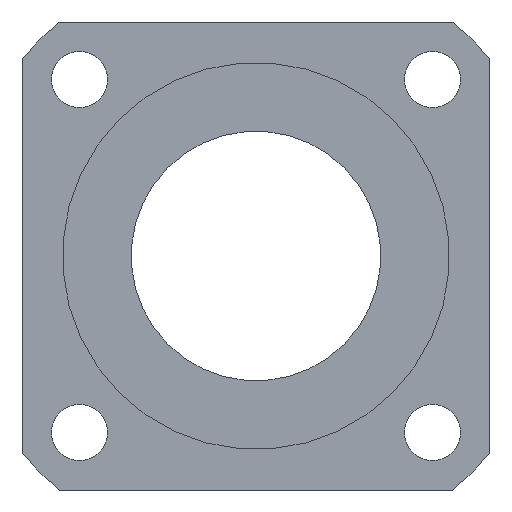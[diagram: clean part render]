
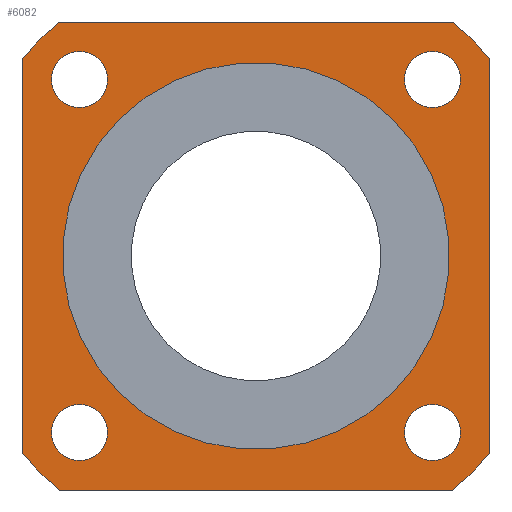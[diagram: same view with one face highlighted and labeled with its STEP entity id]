
A CAD part, left-side view. The second image highlights one B-rep face of the part: STEP entity #6082.
In plain terms, the highlighted planar face has unit normal (-1, 0, 0).
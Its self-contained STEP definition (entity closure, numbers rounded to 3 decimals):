
#104=CIRCLE('',#6450,49.);
#105=CIRCLE('',#6452,49.);
#106=CIRCLE('',#6454,49.);
#116=CIRCLE('',#6469,31.);
#118=CIRCLE('',#6474,49.);
#119=CIRCLE('',#6475,4.5);
#120=CIRCLE('',#6476,4.5);
#121=CIRCLE('',#6477,4.5);
#122=CIRCLE('',#6478,4.5);
#347=LINE('',#9561,#1079);
#348=LINE('',#9562,#1080);
#349=LINE('',#9563,#1081);
#350=LINE('',#9567,#1082);
#1079=VECTOR('',#7063,1000.);
#1080=VECTOR('',#7064,1000.);
#1081=VECTOR('',#7065,1000.);
#1082=VECTOR('',#7068,1000.);
#1888=ORIENTED_EDGE('',*,*,#3638,.T.);
#1889=ORIENTED_EDGE('',*,*,#3621,.F.);
#1890=ORIENTED_EDGE('',*,*,#3639,.T.);
#1891=ORIENTED_EDGE('',*,*,#3624,.F.);
#1892=ORIENTED_EDGE('',*,*,#3640,.T.);
#1893=ORIENTED_EDGE('',*,*,#3641,.F.);
#1894=ORIENTED_EDGE('',*,*,#3642,.T.);
#1895=ORIENTED_EDGE('',*,*,#3619,.F.);
#1896=ORIENTED_EDGE('',*,*,#3643,.T.);
#1897=ORIENTED_EDGE('',*,*,#3644,.T.);
#1898=ORIENTED_EDGE('',*,*,#3645,.T.);
#1899=ORIENTED_EDGE('',*,*,#3646,.T.);
#1900=ORIENTED_EDGE('',*,*,#3636,.T.);
#3619=EDGE_CURVE('',#4496,#4497,#104,.T.);
#3621=EDGE_CURVE('',#4498,#4499,#105,.T.);
#3624=EDGE_CURVE('',#4500,#4501,#106,.T.);
#3636=EDGE_CURVE('',#4511,#4511,#116,.T.);
#3638=EDGE_CURVE('',#4496,#4499,#347,.T.);
#3639=EDGE_CURVE('',#4498,#4501,#348,.T.);
#3640=EDGE_CURVE('',#4500,#4513,#349,.T.);
#3641=EDGE_CURVE('',#4514,#4513,#118,.T.);
#3642=EDGE_CURVE('',#4514,#4497,#350,.T.);
#3643=EDGE_CURVE('',#4515,#4515,#119,.T.);
#3644=EDGE_CURVE('',#4516,#4516,#120,.T.);
#3645=EDGE_CURVE('',#4517,#4517,#121,.T.);
#3646=EDGE_CURVE('',#4518,#4518,#122,.T.);
#4496=VERTEX_POINT('',#9515);
#4497=VERTEX_POINT('',#9517);
#4498=VERTEX_POINT('',#9521);
#4499=VERTEX_POINT('',#9522);
#4500=VERTEX_POINT('',#9527);
#4501=VERTEX_POINT('',#9528);
#4511=VERTEX_POINT('',#9555);
#4513=VERTEX_POINT('',#9564);
#4514=VERTEX_POINT('',#9566);
#4515=VERTEX_POINT('',#9569);
#4516=VERTEX_POINT('',#9571);
#4517=VERTEX_POINT('',#9573);
#4518=VERTEX_POINT('',#9575);
#4993=EDGE_LOOP('',(#1888,#1889,#1890,#1891,#1892,#1893,#1894,#1895));
#4994=EDGE_LOOP('',(#1896));
#4995=EDGE_LOOP('',(#1897));
#4996=EDGE_LOOP('',(#1898));
#4997=EDGE_LOOP('',(#1899));
#4998=EDGE_LOOP('',(#1900));
#5423=FACE_BOUND('',#4993,.T.);
#5424=FACE_BOUND('',#4994,.T.);
#5425=FACE_BOUND('',#4995,.T.);
#5426=FACE_BOUND('',#4996,.T.);
#5427=FACE_BOUND('',#4997,.T.);
#5428=FACE_BOUND('',#4998,.T.);
#5797=PLANE('',#6473);
#6082=ADVANCED_FACE('',(#5423,#5424,#5425,#5426,#5427,#5428),#5797,.F.);
#6450=AXIS2_PLACEMENT_3D('',#9516,#7010,#7011);
#6452=AXIS2_PLACEMENT_3D('',#9520,#7015,#7016);
#6454=AXIS2_PLACEMENT_3D('',#9526,#7021,#7022);
#6469=AXIS2_PLACEMENT_3D('',#9554,#7053,#7054);
#6473=AXIS2_PLACEMENT_3D('',#9560,#7061,#7062);
#6474=AXIS2_PLACEMENT_3D('',#9565,#7066,#7067);
#6475=AXIS2_PLACEMENT_3D('',#9568,#7069,#7070);
#6476=AXIS2_PLACEMENT_3D('',#9570,#7071,#7072);
#6477=AXIS2_PLACEMENT_3D('',#9572,#7073,#7074);
#6478=AXIS2_PLACEMENT_3D('',#9574,#7075,#7076);
#7010=DIRECTION('',(1.,0.,0.));
#7011=DIRECTION('',(0.,0.707,-0.707));
#7015=DIRECTION('',(1.,0.,0.));
#7016=DIRECTION('',(0.,0.707,-0.707));
#7021=DIRECTION('',(1.,0.,0.));
#7022=DIRECTION('',(0.,0.707,-0.707));
#7053=DIRECTION('',(1.,0.,0.));
#7054=DIRECTION('',(0.,0.707,-0.707));
#7061=DIRECTION('',(1.,0.,0.));
#7062=DIRECTION('',(0.,0.707,-0.707));
#7063=DIRECTION('',(0.,1.,0.));
#7064=DIRECTION('',(0.,0.,-1.));
#7065=DIRECTION('',(0.,-1.,0.));
#7066=DIRECTION('',(1.,0.,0.));
#7067=DIRECTION('',(0.,0.707,-0.707));
#7068=DIRECTION('',(0.,0.,1.));
#7069=DIRECTION('',(1.,0.,0.));
#7070=DIRECTION('',(0.,0.707,-0.707));
#7071=DIRECTION('',(1.,0.,0.));
#7072=DIRECTION('',(0.,0.707,-0.707));
#7073=DIRECTION('',(1.,0.,0.));
#7074=DIRECTION('',(0.,0.707,-0.707));
#7075=DIRECTION('',(1.,0.,0.));
#7076=DIRECTION('',(0.,0.707,-0.707));
#9515=CARTESIAN_POINT('',(62.5,-31.54,37.5));
#9516=CARTESIAN_POINT('',(62.5,0.,0.));
#9517=CARTESIAN_POINT('',(62.5,-37.5,31.54));
#9520=CARTESIAN_POINT('',(62.5,0.,0.));
#9521=CARTESIAN_POINT('',(62.5,37.5,31.54));
#9522=CARTESIAN_POINT('',(62.5,31.54,37.5));
#9526=CARTESIAN_POINT('',(62.5,0.,0.));
#9527=CARTESIAN_POINT('',(62.5,31.54,-37.5));
#9528=CARTESIAN_POINT('',(62.5,37.5,-31.54));
#9554=CARTESIAN_POINT('',(62.5,0.,0.));
#9555=CARTESIAN_POINT('',(62.5,21.92,-21.92));
#9560=CARTESIAN_POINT('',(62.5,0.,0.));
#9561=CARTESIAN_POINT('',(62.5,37.5,37.5));
#9562=CARTESIAN_POINT('',(62.5,37.5,-37.5));
#9563=CARTESIAN_POINT('',(62.5,-37.5,-37.5));
#9564=CARTESIAN_POINT('',(62.5,-31.54,-37.5));
#9565=CARTESIAN_POINT('',(62.5,0.,0.));
#9566=CARTESIAN_POINT('',(62.5,-37.5,-31.54));
#9567=CARTESIAN_POINT('',(62.5,-37.5,37.5));
#9568=CARTESIAN_POINT('',(62.5,28.284,-28.284));
#9569=CARTESIAN_POINT('',(62.5,31.466,-31.466));
#9570=CARTESIAN_POINT('',(62.5,-28.284,-28.284));
#9571=CARTESIAN_POINT('',(62.5,-25.102,-31.466));
#9572=CARTESIAN_POINT('',(62.5,-28.284,28.284));
#9573=CARTESIAN_POINT('',(62.5,-25.102,25.102));
#9574=CARTESIAN_POINT('',(62.5,28.284,28.284));
#9575=CARTESIAN_POINT('',(62.5,31.466,25.102));
